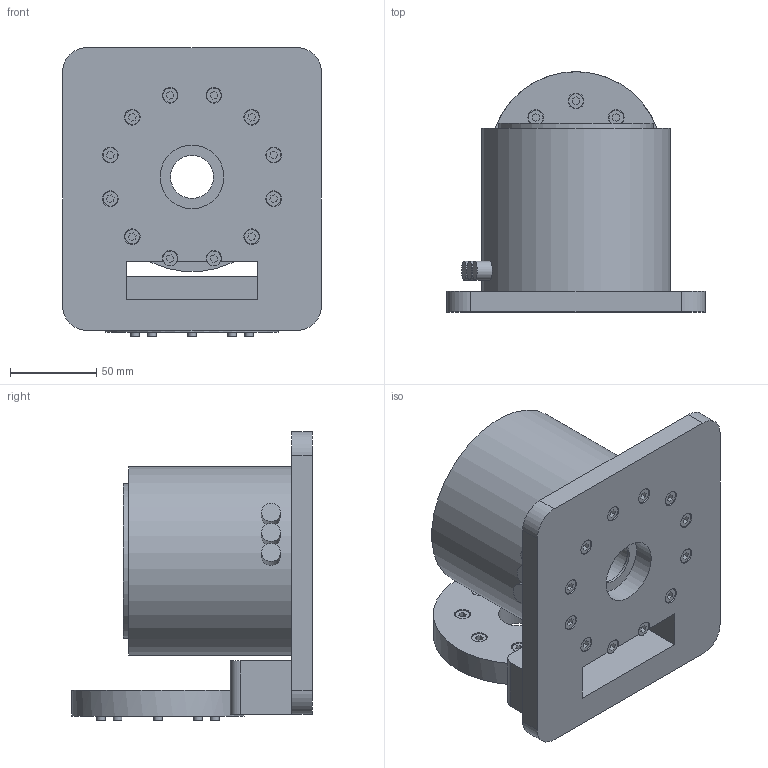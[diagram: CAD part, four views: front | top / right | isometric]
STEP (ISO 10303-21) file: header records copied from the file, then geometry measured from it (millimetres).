
FILE_DESCRIPTION(('Open CASCADE Model'),'2;1');
FILE_NAME('Open CASCADE Shape Model','2026-10-17T21:01:26',('Author'),( 'Open CASCADE'),'Open CASCADE STEP processor 7.9','Open CASCADE 7.9' ,'Unknown');
FILE_SCHEMA(('AUTOMOTIVE_DESIGN { 1 0 10303 214 1 1 1 1 }'));
Length unit declared in the file: millimetre
Products named in the file (7): ARM_L1_TURRET; turret_bracket; J1_flange_screws_M5; J2_body_screws_M5; J2_actuator_body; J2_actuator_output_flange; J2_actuator_connectors
Assembly tree (6 placements, depth 2):
  ARM_L1_TURRET
    turret_bracket
    J1_flange_screws_M5
    J2_body_screws_M5
    J2_actuator_body
    J2_actuator_output_flange
    J2_actuator_connectors
Bounding box: 150 x 139.6 x 167.5 mm (x, y, z)
Volume: 1340731 mm3; surface area: 190933.4 mm2
Topology: 26 solids, 26 shells, 403 faces, 837 edges, 558 vertices
Faces by surface type: plane 264, cylinder 139
Full cylindrical faces by diameter (mm): 4.2 x36, 5 x20, 5.5 x18, 8.5 x20, 9.1 x18, 11 x3, 24 x1, 25 x2, 29 x1, 37 x1, 90 x1, 100 x1, 107 x2, 110 x1
Entity records: 22210 total; most frequent: CARTESIAN_POINT 3977, DIRECTION 3473, LINE 1885, VECTOR 1885, ORIENTED_EDGE 1674, PCURVE 1674, DEFINITIONAL_REPRESENTATION 1674, EDGE_CURVE 837
